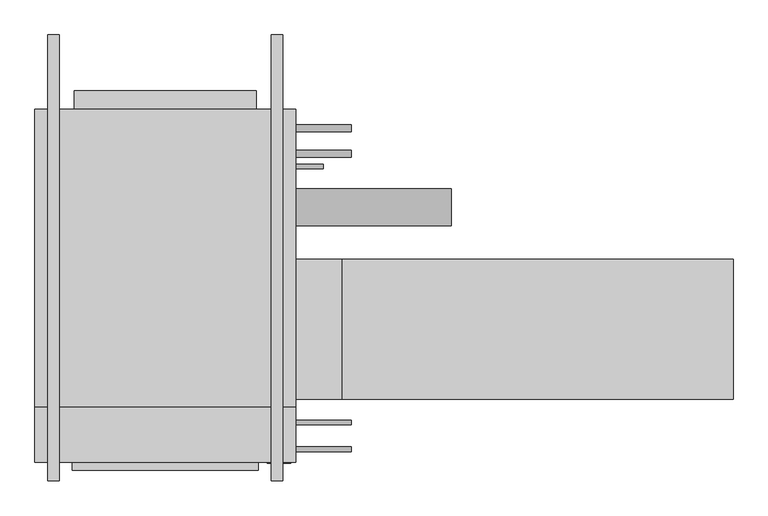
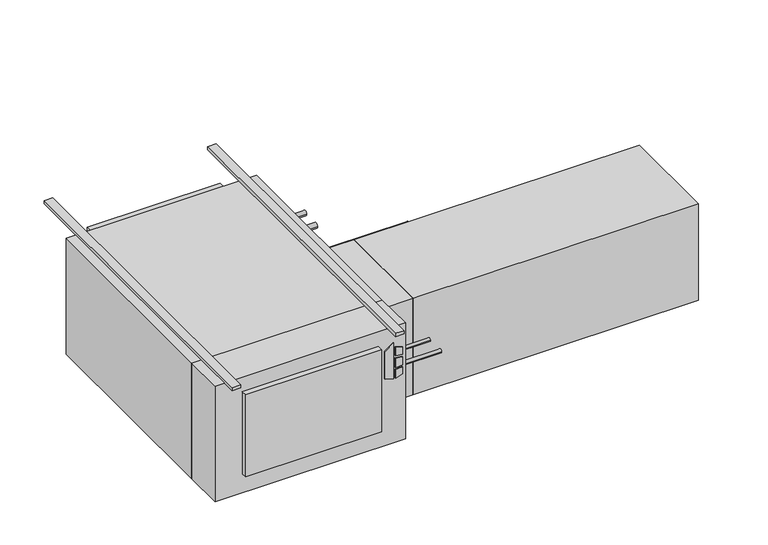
"""IFC4 building model written with IfcOpenShell, lengths in millimetres: proxy geometry."""

from ifc_helpers import new_model, si_unit, point, frame, frame_2d, origin, origin_with_axes, place, context, project, spatial, polyline, circle_curve, trimmed, segment, composite_curve, outline, extrude, source, transform, mapped, element, save


def mechanical_equipment_fb8a0a16(model_context):
    return source(origin(), model_context, "Body", "SweptSolid", [
        extrude(outline(polyline([(-193.2519297, 430.2868862), (-203.2, 462.4602728), (-61.0290756, 462.4602728), (-84.0510817, 430.2868862), (-193.2519297, 430.2868862)])), frame((0.0, -797.052, 0.0), z_axis=(0.0, 1.0, 0.0), x_axis=(0.0, 0.0, 1.0)), (0.0, 0.0, 1.0), 3.175),
        extrude(outline(polyline([(-114.2526443, 469.2186058), (-117.4550368, 495.3), (-88.2261958, 495.3), (-80.1617807, 469.2186058), (-114.2526443, 469.2186058)])), frame((0.0, -797.052, 0.0), z_axis=(0.0, 1.0, 0.0), x_axis=(0.0, 0.0, 1.0)), (0.0, 0.0, 1.0), 3.175),
        extrude(outline(polyline([(-166.1161712, 495.3), (-169.7816721, 469.2186058), (-203.2, 469.2186058), (-194.5657628, 495.3), (-166.1161712, 495.3)])), frame((0.0, -797.052, 0.0), z_axis=(0.0, 1.0, 0.0), x_axis=(0.0, 0.0, 1.0)), (0.0, 0.0, 1.0), 3.175),
        extrude(outline(polyline([(-126.8010097, 495.3), (-124.5191834, 469.2186058), (-160.4567319, 469.2186058), (-157.7154669, 495.3), (-126.8010097, 495.3)])), frame((0.0, -797.052, 0.0), z_axis=(0.0, 1.0, 0.0), x_axis=(0.0, 0.0, 1.0)), (0.0, 0.0, 1.0), 3.175),
        extrude(outline(polyline([(508.0, -793.877), (-203.2, -793.877), (-203.2, -644.525), (508.0, -644.525), (508.0, -793.877)])), frame((0.0, 0.0, -457.2), z_axis=(0.0, 0.0, 1.0), x_axis=(1.0, 0.0, 0.0)), (0.0, 0.0, 1.0), 457.2),
        extrude(outline(polyline([(406.4, -816.229), (-101.6, -816.229), (-101.6, -793.877), (406.4, -793.877), (406.4, -816.229)])), frame((0.0, 0.0, -381.0), z_axis=(0.0, 0.0, 1.0), x_axis=(1.0, 0.0, 0.0)), (0.0, 0.0, 1.0), 323.85),
        extrude(outline(polyline([(1701.8, -241.3), (1701.8, -622.3), (635.0, -622.3), (635.0, -241.3), (1701.8, -241.3)])), frame((0.0, 0.0, -431.8), z_axis=(0.0, 0.0, 1.0), x_axis=(1.0, 0.0, 0.0)), (0.0, 0.0, 1.0), 381.0),
        extrude(outline(polyline([(635.0, -241.3), (635.0, -622.3), (508.0, -622.3), (508.0, -241.3), (635.0, -241.3)])), frame((0.0, 0.0, -431.8), z_axis=(0.0, 0.0, 1.0), x_axis=(1.0, 0.0, 0.0)), (0.0, 0.0, 1.0), 381.0),
        extrude(outline(composite_curve([segment(trimmed(circle_curve(frame_2d((-758.825, -184.15)), 6.35), [point((-752.475, -184.15))], [point((-765.175, -184.15))], False, "CARTESIAN"), True, "CONTINUOUS"), segment(trimmed(circle_curve(frame_2d((-758.825, -184.15)), 6.35), [point((-765.175, -184.15))], [point((-752.475, -184.15))], False, "CARTESIAN"), True, "CONTINUOUS")], self_intersect=False)), frame((508.0, 0.0, 0.0), z_axis=(1.0, 0.0, 0.0), x_axis=(0.0, 1.0, 0.0)), (0.0, 0.0, 1.0), 152.4),
        extrude(outline(composite_curve([segment(trimmed(circle_curve(frame_2d((-685.8, -184.15)), 6.35), [point((-679.45, -184.15))], [point((-692.15, -184.15))], False, "CARTESIAN"), True, "CONTINUOUS"), segment(trimmed(circle_curve(frame_2d((-685.8, -184.15)), 6.35), [point((-692.15, -184.15))], [point((-679.45, -184.15))], False, "CARTESIAN"), True, "CONTINUOUS")], self_intersect=False)), frame((508.0, 0.0, 0.0), z_axis=(1.0, 0.0, 0.0), x_axis=(0.0, 1.0, 0.0)), (0.0, 0.0, 1.0), 152.4),
        extrude(outline(composite_curve([segment(trimmed(circle_curve(frame_2d((117.475, -171.45)), 9.525), [point((127.0, -171.45))], [point((107.95, -171.45))], False, "CARTESIAN"), True, "CONTINUOUS"), segment(trimmed(circle_curve(frame_2d((117.475, -171.45)), 9.525), [point((107.95, -171.45))], [point((127.0, -171.45))], False, "CARTESIAN"), True, "CONTINUOUS")], self_intersect=False)), frame((508.0, 0.0, 0.0), z_axis=(1.0, 0.0, 0.0), x_axis=(0.0, 1.0, 0.0)), (0.0, 0.0, 1.0), 152.4),
        extrude(outline(composite_curve([segment(trimmed(circle_curve(frame_2d((47.625, -177.8)), 9.525), [point((57.15, -177.8))], [point((38.1, -177.8))], False, "CARTESIAN"), True, "CONTINUOUS"), segment(trimmed(circle_curve(frame_2d((47.625, -177.8)), 9.525), [point((38.1, -177.8))], [point((57.15, -177.8))], False, "CARTESIAN"), True, "CONTINUOUS")], self_intersect=False)), frame((508.0, 0.0, 0.0), z_axis=(1.0, 0.0, 0.0), x_axis=(0.0, 1.0, 0.0)), (0.0, 0.0, 1.0), 152.4),
        extrude(outline(composite_curve([segment(trimmed(circle_curve(frame_2d((-98.4896516, -228.6360165)), 50.8), [point((-47.6896516, -228.6360165))], [point((-149.2896516, -228.6360165))], False, "CARTESIAN"), True, "CONTINUOUS"), segment(trimmed(circle_curve(frame_2d((-98.4896516, -228.6360165)), 50.8), [point((-149.2896516, -228.6360165))], [point((-47.6896516, -228.6360165))], False, "CARTESIAN"), True, "CONTINUOUS")], self_intersect=False)), frame((508.0, 0.0, 0.0), z_axis=(1.0, 0.0, 0.0), x_axis=(0.0, 1.0, 0.0)), (0.0, 0.0, 1.0), 425.45),
        extrude(outline(composite_curve([segment(trimmed(circle_curve(frame_2d((12.7, -409.575)), 6.35), [point((19.05, -409.575))], [point((6.35, -409.575))], False, "CARTESIAN"), True, "CONTINUOUS"), segment(trimmed(circle_curve(frame_2d((12.7, -409.575)), 6.35), [point((6.35, -409.575))], [point((19.05, -409.575))], False, "CARTESIAN"), True, "CONTINUOUS")], self_intersect=False)), frame((508.0, 0.0, 0.0), z_axis=(1.0, 0.0, 0.0), x_axis=(0.0, 1.0, 0.0)), (0.0, 0.0, 1.0), 76.2),
        extrude(outline(polyline([(508.0, 168.275), (508.0, -644.525), (-203.2, -644.525), (-203.2, 168.275), (508.0, 168.275)])), frame((0.0, 0.0, -457.2), z_axis=(0.0, 0.0, 1.0), x_axis=(1.0, 0.0, 0.0)), (0.0, 0.0, 1.0), 457.2),
        extrude(outline(polyline([(-95.25, 219.075), (400.05, 219.075), (400.05, 168.275), (-95.25, 168.275), (-95.25, 219.075)])), frame((0.0, 0.0, -381.0), z_axis=(0.0, 0.0, 1.0), x_axis=(1.0, 0.0, 0.0)), (0.0, 0.0, 1.0), 355.6),
        extrude(outline(polyline([(-136.525, 371.475), (-136.525, -844.677), (-168.275, -844.677), (-168.275, 371.475), (-136.525, 371.475)])), origin_with_axes(), (0.0, 0.0, 1.0), 12.7),
        extrude(outline(polyline([(473.075, 371.475), (473.075, -844.677), (441.325, -844.677), (441.325, 371.475), (473.075, 371.475)])), origin_with_axes(), (0.0, 0.0, 1.0), 12.7),
    ])


if __name__ == "__main__":
    model = new_model("IFC4")
    model_context = context("Model", 3, world=origin())
    ifc_project = project(units=[si_unit("LENGTHUNIT", "METRE", prefix="MILLI")], contexts=[model_context])
    site = spatial("IfcSite", under=ifc_project)
    building = spatial("IfcBuilding", under=site)
    placement = place(None, origin())
    mechanical_equipment_shape = mechanical_equipment_fb8a0a16(model_context)
    element("IfcBuildingElementProxy", 1, Name="High_Capacity_Horizontal_Cabinet_Fan_Coil_Unit_-_HTY_-_IEC_-_4-Pipe_RH Side_2022 : Size 08 - 115v/60Hz/1Ph - 4/1 Coil - 4\" AirIn", ObjectType="High_Capacity_Horizontal_Cabinet_Fan_Coil_Unit_-_HTY_-_IEC_-_4-Pipe_RH Side_2022 : Size 08 - 115v/60Hz/1Ph - 4/1 Coil - 4\" AirIn", at=placement, inside=building, context=model_context, shape_type="MappedRepresentation", body=[
        mapped(mechanical_equipment_shape, transform((0.0, 0.0, 0.0), x_axis=(1.0, 0.0, 0.0), y_axis=(0.0, 1.0, 0.0), z_axis=(0.0, 0.0, 1.0))),
    ])
    save(model, "model.ifc")
